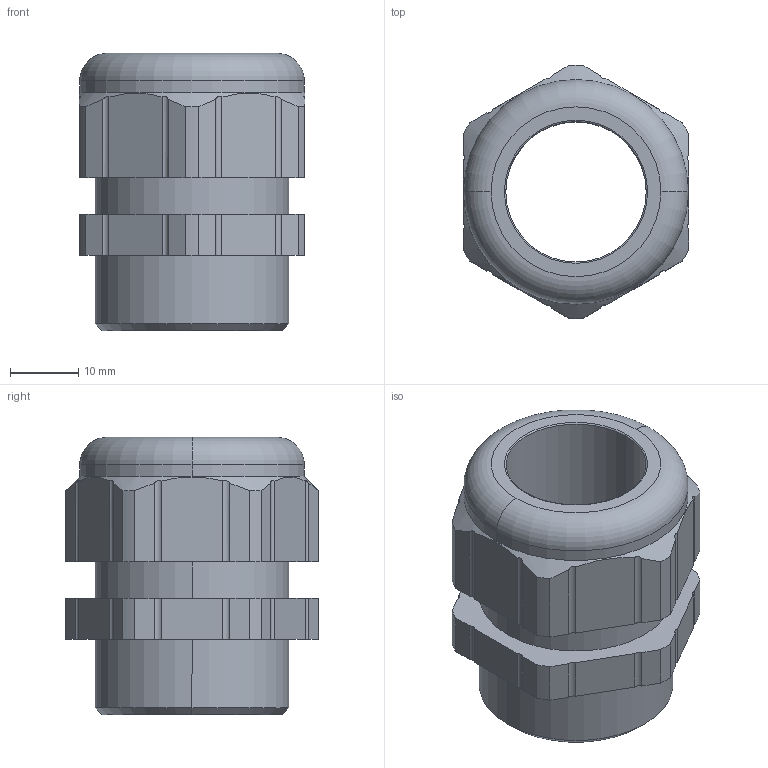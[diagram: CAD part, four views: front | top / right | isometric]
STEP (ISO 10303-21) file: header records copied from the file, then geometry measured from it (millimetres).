
FILE_DESCRIPTION (( 'STEP AP203' ), '1' );
FILE_NAME ('18211721 T.STEP', '2006-12-08T09:56:37', ( ' ' ), ( '' ), 'SwSTEP 2.0', 'SolidWorks 2005278', '' );
FILE_SCHEMA (( 'CONFIG_CONTROL_DESIGN' ));
Length unit declared in the file: millimetre
Products named in the file (1): 18211721 T
Bounding box: 33 x 36.99 x 40.5 mm (x, y, z)
Volume: 18609.2 mm3; surface area: 8277.4 mm2
Topology: 1 solids, 1 shells, 134 faces, 370 edges, 244 vertices
Faces by surface type: plane 78, cylinder 48, cone 4, torus 4
Entity records: 4499 total; most frequent: CARTESIAN_POINT 973, ORIENTED_EDGE 740, DIRECTION 698, EDGE_CURVE 370, VERTEX_POINT 244, VECTOR 244, LINE 244, AXIS2_PLACEMENT_3D 227
